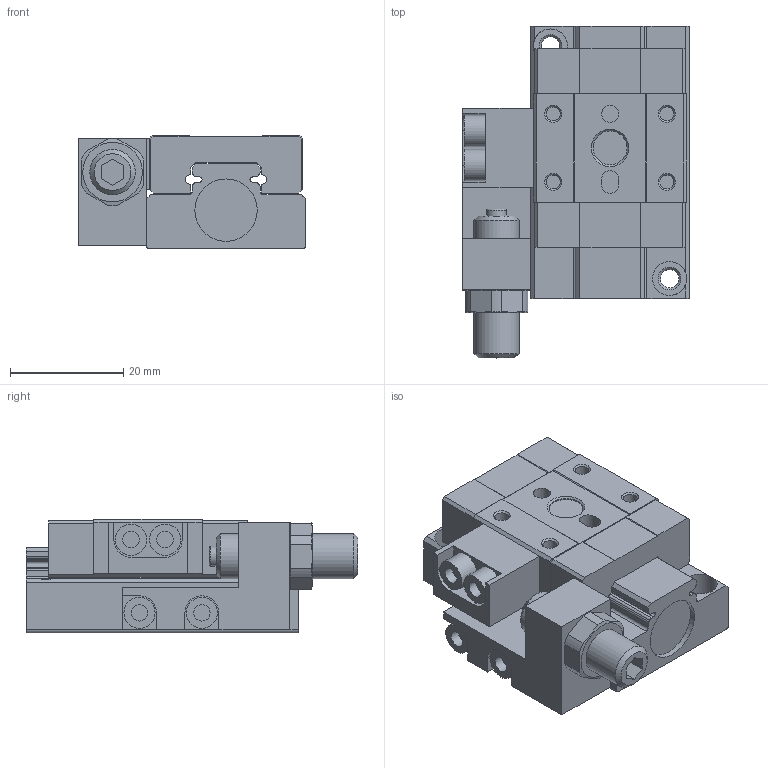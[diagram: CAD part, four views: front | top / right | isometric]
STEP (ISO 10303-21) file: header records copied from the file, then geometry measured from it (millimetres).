
FILE_DESCRIPTION(/* description */ ('STEP AP214'),/* implementation_level */ '2;1');
FILE_NAME(/* name */ 'HGS10X5J(0)',/* time_stamp */ '2024-09-22T11:42:04+02:00',/* author */ ('License CC BY-ND 4.0'),/* organization */ ('CADENAS'),/* preprocessor_version */ 'ST-DEVELOPER v19.3',/* originating_system */ 'PARTsolutions',/* authorisation */ ' ');
FILE_SCHEMA (('AUTOMOTIVE_DESIGN {1 0 10303 214 3 1 1}'));
Length unit declared in the file: millimetre
Products named in the file (4): HGS10X5J(0); HGS10X5J(0)_dummy; HGS10X5J(0)_body; HGS10X5J(0)_t
Assembly tree (3 placements, depth 2):
  HGS10X5J(0)
    HGS10X5J(0)_dummy
    HGS10X5J(0)_body
    HGS10X5J(0)_t
Bounding box: 40 x 58.5 x 20 mm (x, y, z)
Volume: 27464.1 mm3; surface area: 12607.4 mm2
Topology: 2 solids, 6 shells, 244 faces, 577 edges, 377 vertices
Faces by surface type: plane 146, cylinder 75, cone 22, torus 1
Full cylindrical faces by diameter (mm): 2.459 x12, 2.88 x2, 2.9 x2, 3 x2, 3.242 x2, 3.5 x1, 4.134 x2, 5.5 x4, 6 x4, 8 x2, 11 x2
Entity records: 6769 total; most frequent: DIRECTION 1171, CARTESIAN_POINT 1166, ORIENTED_EDGE 1024, EDGE_CURVE 512, AXIS2_PLACEMENT_3D 423, VERTEX_POINT 369, EDGE_LOOP 339, FACE_BOUND 339
